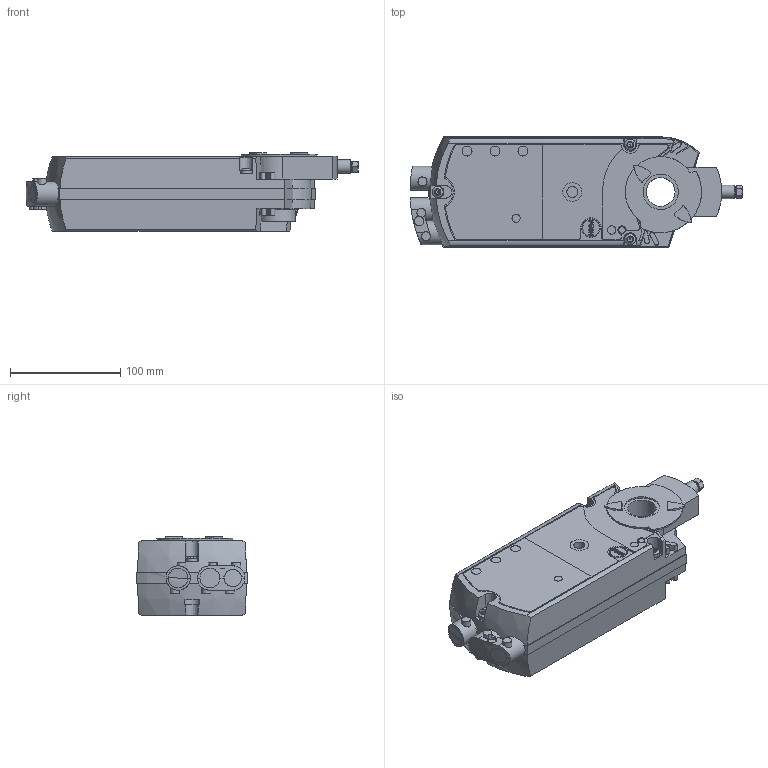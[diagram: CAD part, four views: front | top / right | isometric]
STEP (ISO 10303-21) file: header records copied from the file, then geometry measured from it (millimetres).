
FILE_DESCRIPTION(/* description */ (''),/* implementation_level */ '2;1');
FILE_NAME(/* name */ '8000077716_01.stp',/* time_stamp */ '2014-09-15T16:10:44+02:00',/* author */ (''),/* organization */ (''),/* preprocessor_version */ 'ST-DEVELOPER v15',/* originating_system */ 'SIEMENS PLM Software NX 8.5',/* authorisation */ '');
FILE_SCHEMA (('AUTOMOTIVE_DESIGN { 1 0 10303 214 3 1 1 1 }'));
Length unit declared in the file: millimetre
Products named in the file (1): 8000077716_01
Bounding box: 300.79 x 100.03 x 71.15 mm (x, y, z)
Volume: 1413377.9 mm3; surface area: 113018.8 mm2
Topology: 1 solids, 7 shells, 582 faces, 1509 edges, 970 vertices
Faces by surface type: plane 212, cylinder 145, cone 74, bspline 68, extrusion 52, torus 23, sphere 8
Full cylindrical faces by diameter (mm): 0.75 x3, 6 x3, 7.4 x2, 8 x2, 9 x3, 9.8 x1, 10 x4, 12.2 x1, 15.8 x1, 17 x1, 22 x1, 26 x1, 33.377 x1, 33.8 x1, 39.469 x1
Entity records: 25566 total; most frequent: CARTESIAN_POINT 8175, ORIENTED_EDGE 2818, DIRECTION 2591, EDGE_CURVE 1409, AXIS2_PLACEMENT_3D 1009, VERTEX_POINT 942, EDGE_LOOP 679, PRESENTATION_STYLE_ASSIGNMENT 583
